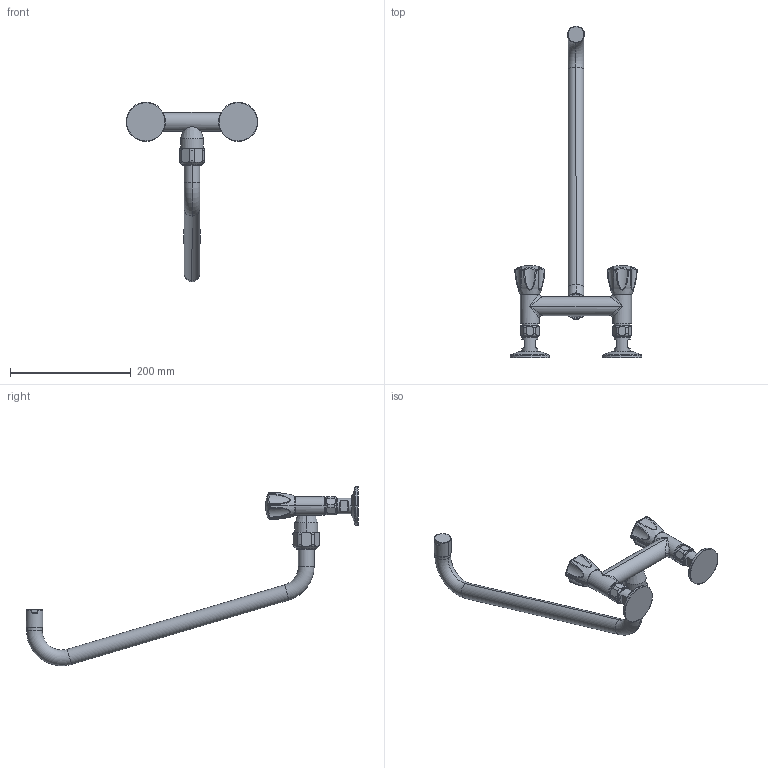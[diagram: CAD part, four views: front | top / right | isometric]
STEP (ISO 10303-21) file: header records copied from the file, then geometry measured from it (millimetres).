
FILE_DESCRIPTION((''),'2;1');
FILE_NAME('K_24_42_24_000C74','2012-01-04T',('HEF'),(''),'PRO/ENGINEER BY PARAMETRIC TECHNOLOGY CORPORATION, 2011080','PRO/ENGINEER BY PARAMETRIC TECHNOLOGY CORPORATION, 2011080','');
FILE_SCHEMA(('AUTOMOTIVE_DESIGN_CC2 { 1 2 10303 214 -1 1 5 2 }'));
Length unit declared in the file: millimetre
Products named in the file (1): K_24_42_24_000C74
Bounding box: 218 x 549.74 x 297.18 mm (x, y, z)
Volume: 774025.5 mm3; surface area: 119521.7 mm2
Topology: 3 solids, 3 shells, 364 faces, 851 edges, 516 vertices
Faces by surface type: plane 124, cylinder 74, torus 72, bspline 36, sphere 28, cone 26, extrusion 4
Entity records: 21025 total; most frequent: CARTESIAN_POINT 10031, DIRECTION 1733, ORIENTED_EDGE 1702, EDGE_CURVE 851, AXIS2_PLACEMENT_3D 710, VERTEX_POINT 516, FILL_AREA_STYLE_COLOUR 408, FILL_AREA_STYLE 408
